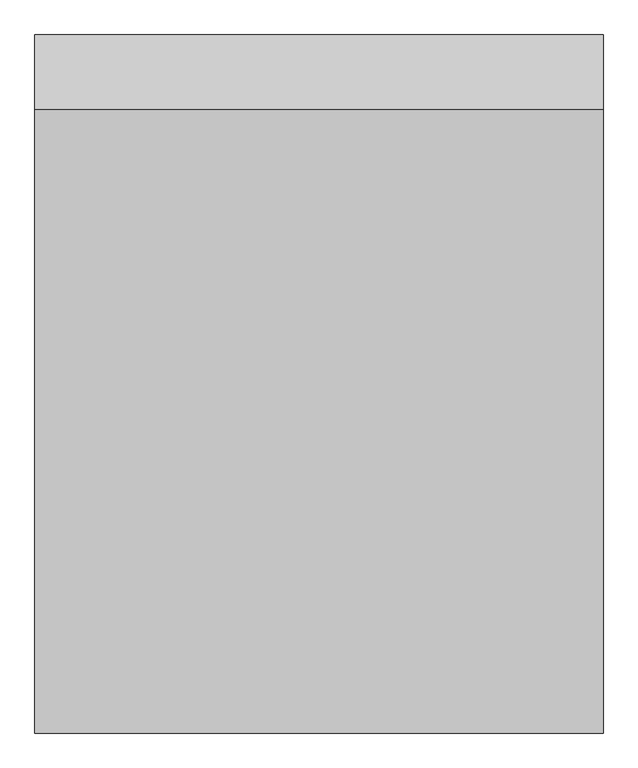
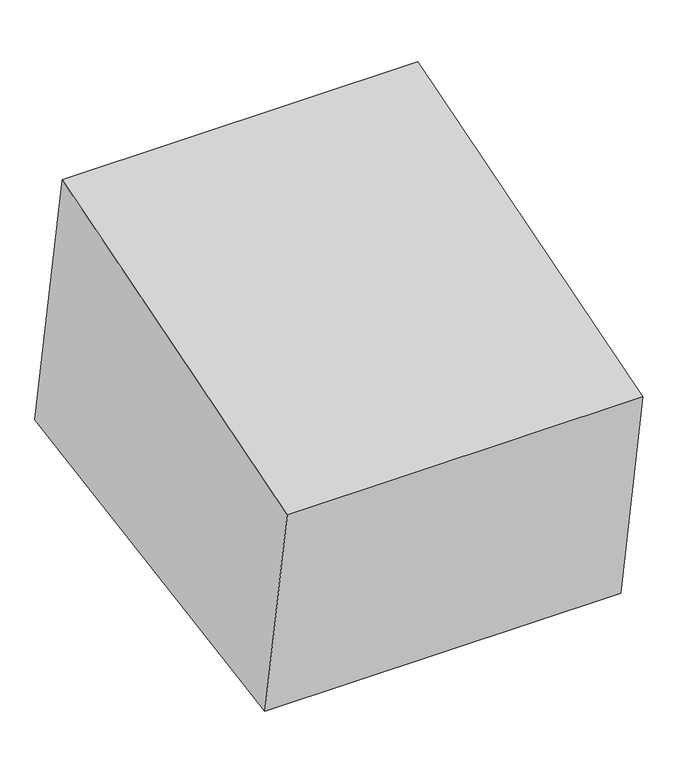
"""IFC4 building model written with IfcOpenShell, lengths in millimetres: proxy geometry, Excavation FamilySP : Excavation FamilySP."""

from ifc_helpers import new_model, si_unit, frame, origin, place, context, project, spatial, polyline, outline, extrude, source, transform, mapped, element, save


def generic_models_52e6286f(model_context):
    return source(origin(), model_context, "Body", "SweptSolid", [
        extrude(outline(polyline([(-402.0046557, 2418.8475547), (0.0, 0.0), (-3413.039822, -567.2362014), (-3741.9064263, 1411.542328), (-402.0046557, 2418.8475547)])), frame((-1524.0, 0.0, 0.0), z_axis=(1.0, 0.0, 0.0), x_axis=(0.0, 1.0, 0.0)), (0.0, 0.0, 1.0), 3048.0),
    ])


if __name__ == "__main__":
    model = new_model("IFC4")
    model_context = context("Model", 3, world=origin())
    ifc_project = project(units=[si_unit("LENGTHUNIT", "METRE", prefix="MILLI")], contexts=[model_context])
    site = spatial("IfcSite", under=ifc_project)
    building = spatial("IfcBuilding", under=site)
    placement = place(None, origin())
    generic_models_shape = generic_models_52e6286f(model_context)
    element("IfcBuildingElementProxy", 1, Name="Excavation FamilySP : Excavation FamilySP", ObjectType="Excavation FamilySP : Excavation FamilySP", at=placement, inside=building, context=model_context, shape_type="MappedRepresentation", body=[
        mapped(generic_models_shape, transform((0.0, 0.0, 0.0), x_axis=(1.0, 0.0, 0.0), y_axis=(0.0, 1.0, 0.0), z_axis=(0.0, 0.0, 1.0))),
    ])
    save(model, "model.ifc")
